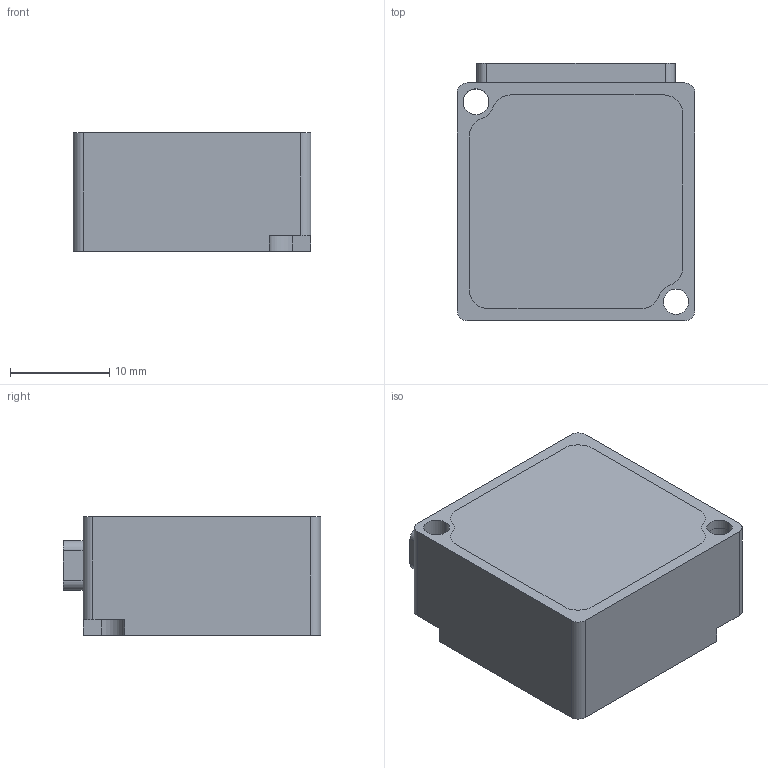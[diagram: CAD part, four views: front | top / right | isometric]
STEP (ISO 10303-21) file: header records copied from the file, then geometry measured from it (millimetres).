
FILE_DESCRIPTION (( 'STEP AP203' ), '1' );
FILE_NAME ('HI13XX-S4-3D.STEP', '2026-03-16T08:10:51', ( '' ), ( '' ), 'SwSTEP 2.0', 'SolidWorks 2025', '' );
FILE_SCHEMA (( 'CONFIG_CONTROL_DESIGN' ));
Length unit declared in the file: millimetre
Products named in the file (1): HI13XX-S4-3D
Bounding box: 24 x 26 x 12 mm (x, y, z)
Volume: 3631 mm3; surface area: 5116.2 mm2
Topology: 2 solids, 2 shells, 151 faces, 403 edges, 260 vertices
Faces by surface type: cylinder 77, plane 58, cone 16
Entity records: 4838 total; most frequent: DIRECTION 861, CARTESIAN_POINT 849, ORIENTED_EDGE 798, EDGE_CURVE 399, AXIS2_PLACEMENT_3D 312, VERTEX_POINT 260, LINE 237, VECTOR 237
